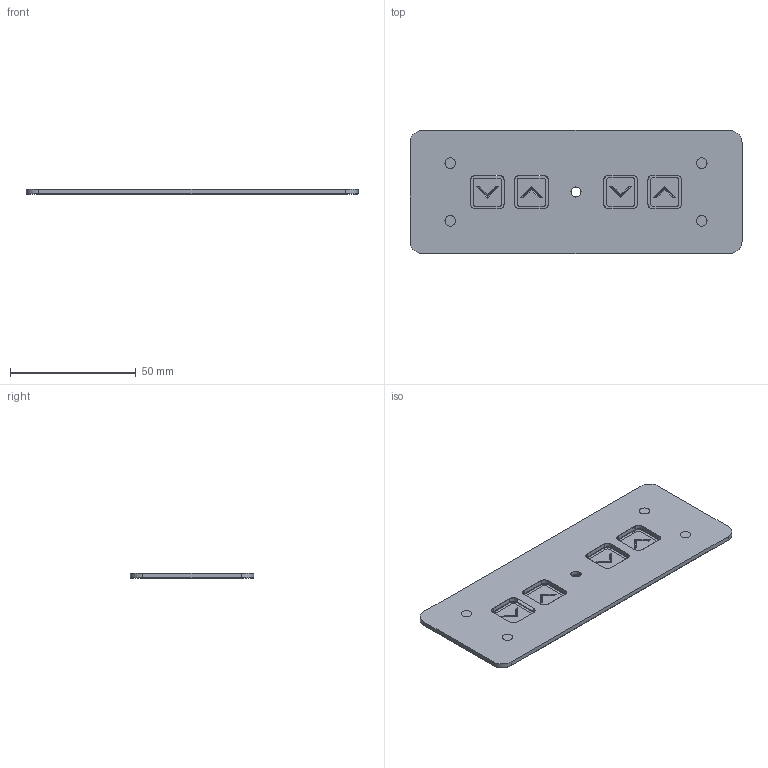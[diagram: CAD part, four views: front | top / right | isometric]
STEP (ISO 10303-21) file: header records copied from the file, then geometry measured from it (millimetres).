
FILE_DESCRIPTION (( 'STEP AP214' ), '1' );
FILE_NAME ('TFH7P.STEP', '2015-06-12T07:00:18', ( '' ), ( '' ), 'SwSTEP 2.0', 'SolidWorks 2010', '' );
FILE_SCHEMA (( 'AUTOMOTIVE_DESIGN' ));
Length unit declared in the file: millimetre
Products named in the file (1): TFH7P
Bounding box: 132 x 49 x 2.3 mm (x, y, z)
Surface area: 13242.2 mm2 (no closed solid volume)
Topology: 0 solids, 9 shells, 132 faces, 442 edges, 314 vertices
Faces by surface type: cylinder 77, plane 33, torus 22
Entity records: 6318 total; most frequent: CARTESIAN_POINT 961, DIRECTION 865, ORIENTED_EDGE 708, EDGE_CURVE 442, AXIS2_PLACEMENT_3D 314, VERTEX_POINT 314, LINE 237, VECTOR 237
